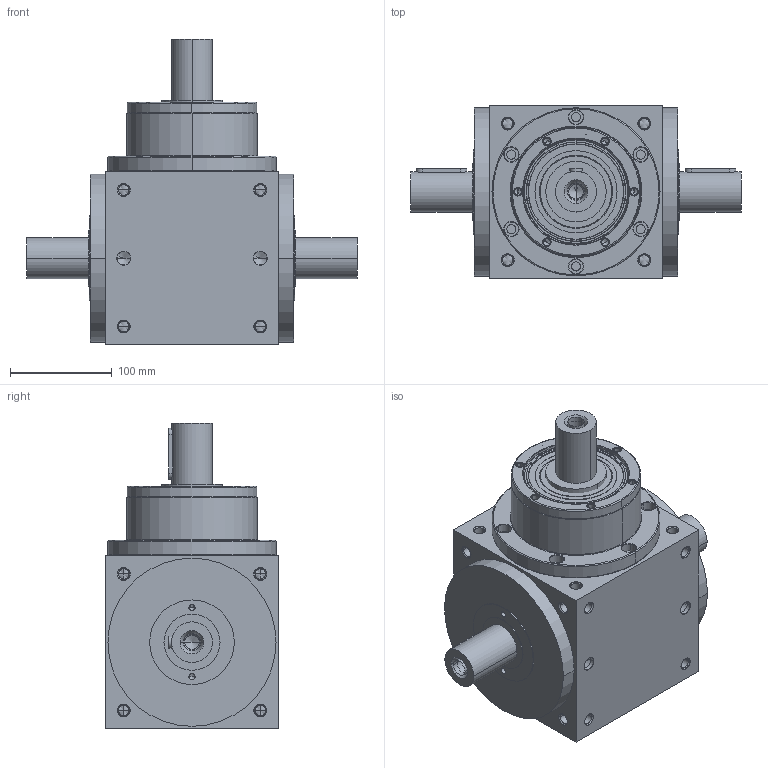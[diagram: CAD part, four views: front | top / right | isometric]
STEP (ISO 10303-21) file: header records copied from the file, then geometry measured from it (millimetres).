
FILE_DESCRIPTION((''),'2;1');
FILE_NAME('ATB170L-1_ASM','2014-07-18T',('D00080'),(''),'PRO/ENGINEER BY PARAMETRIC TECHNOLOGY CORPORATION, 2008170','PRO/ENGINEER BY PARAMETRIC TECHNOLOGY CORPORATION, 2008170','');
FILE_SCHEMA(('CONFIG_CONTROL_DESIGN'));
Length unit declared in the file: millimetre
Products named in the file (4): ATBL-HOUSING-1-7; P1820700001; 22400071007; ATB170L-1_ASM
Assembly tree (3 placements, depth 2):
  ATB170L-1_ASM
    ATBL-HOUSING-1-7
    P1820700001
    22400071007
Bounding box: 324 x 170 x 300 mm (x, y, z)
Volume: 6382783.9 mm3; surface area: 393508.1 mm2
Topology: 4 solids, 37 shells, 613 faces, 1515 edges, 898 vertices
Faces by surface type: cylinder 284, cone 210, plane 81, torus 38
Entity records: 18346 total; most frequent: CARTESIAN_POINT 3881, DIRECTION 3247, ORIENTED_EDGE 2738, EDGE_CURVE 1435, AXIS2_PLACEMENT_3D 1360, VERTEX_POINT 898, CIRCLE 736, EDGE_LOOP 729
